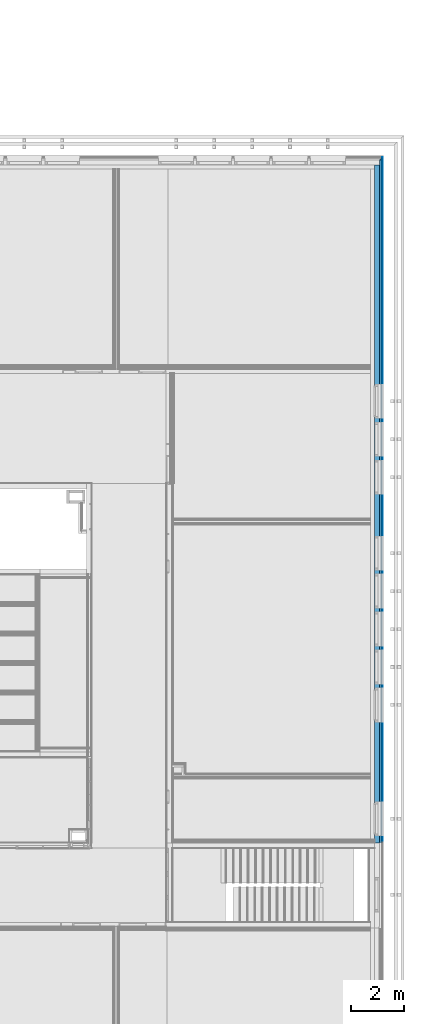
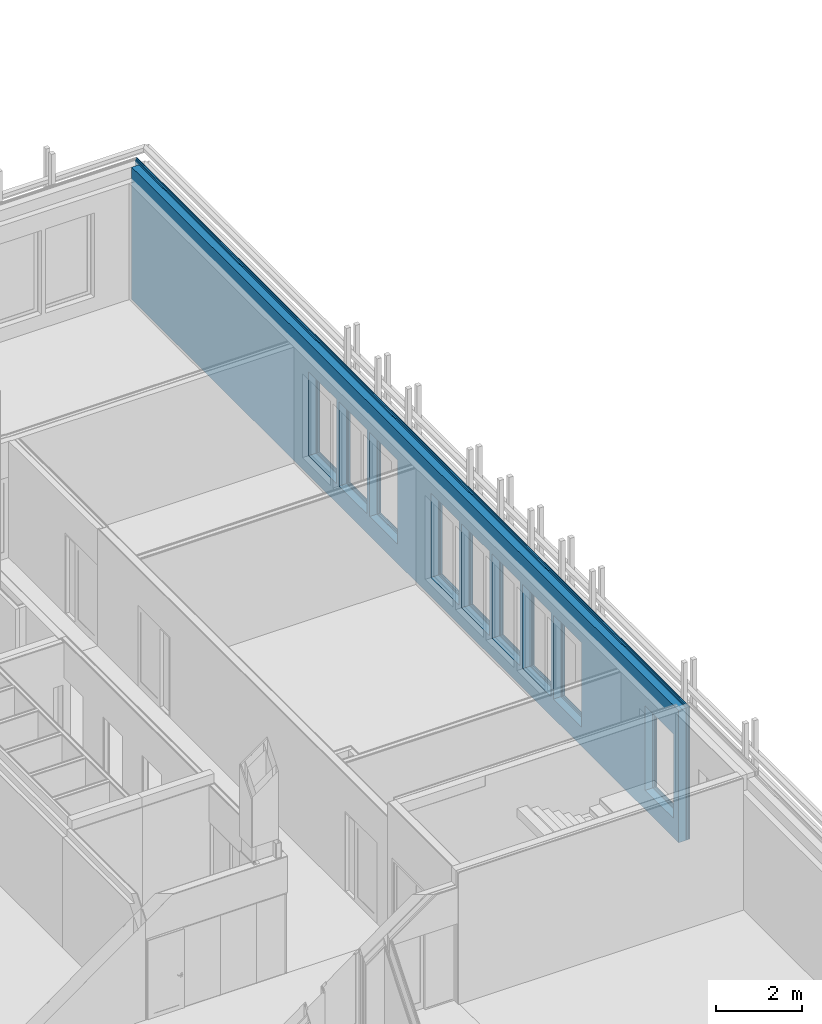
# One storey, part 122 of 139: 5 building element parts, 9 openings, 1 element without a shape of its own.
"""IFC2X3 building model written with IfcOpenShell, lengths in millimetres."""

from ifc_helpers import new_model, entity, si_unit, converted_unit, derived_unit, money_unit, direction, frame, origin_with_axes, place, context, subcontext, project, spatial, faceted_brep, material, type_object, element, aggregate, save


model = new_model("IFC2X3")

# Units and contexts
model_context = context("Model", 3, precision=0.01, world=origin_with_axes(), true_north=direction((0.0, 1.0)))
body_context = subcontext(model_context, "Body", "Model", "MODEL_VIEW")
ifc_project = project(units=[si_unit("LENGTHUNIT", "METRE", prefix="MILLI"), si_unit("AREAUNIT", "SQUARE_METRE"), si_unit("VOLUMEUNIT", "CUBIC_METRE"), converted_unit("PLANEANGLEUNIT", "DEGREE", entity("IfcPlaneAngleMeasure", 0.0174532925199), si_unit("PLANEANGLEUNIT", "RADIAN"), dimensions=[0, 0, 0, 0, 0, 0, 0]), money_unit("EUR"), converted_unit("TIMEUNIT", "Year", entity("IfcTimeMeasure", 31556926.0), si_unit("TIMEUNIT", "SECOND"), dimensions=[0, 0, 1, 0, 0, 0, 0]), si_unit("MASSUNIT", "GRAM", prefix="KILO"), si_unit("THERMODYNAMICTEMPERATUREUNIT", "DEGREE_CELSIUS"), si_unit("LUMINOUSINTENSITYUNIT", "LUMEN"), si_unit("ENERGYUNIT", "JOULE", prefix="MEGA"), derived_unit("THERMALCONDUCTANCEUNIT", [(si_unit("POWERUNIT", "WATT"), 1), (si_unit("LENGTHUNIT", "METRE"), -1), (si_unit("THERMODYNAMICTEMPERATUREUNIT", "KELVIN"), -1)]), derived_unit("SPECIFICHEATCAPACITYUNIT", [(si_unit("ENERGYUNIT", "JOULE"), 1), (si_unit("MASSUNIT", "GRAM", prefix="KILO"), -1), (si_unit("THERMODYNAMICTEMPERATUREUNIT", "KELVIN"), -1)]), derived_unit("MASSDENSITYUNIT", [(si_unit("MASSUNIT", "GRAM", prefix="KILO"), 1), (si_unit("VOLUMEUNIT", "CUBIC_METRE"), -1)])], contexts=[model_context])

# Site, building, storey
site_placement = place(None, origin_with_axes())
site = spatial("IfcSite", under=ifc_project, at=site_placement, Name="Kolde pst 67a", CompositionType="ELEMENT")
building_placement = place(site_placement, origin_with_axes())
building = spatial("IfcBuilding", under=site, at=building_placement, Name="Riigigümnaasium", CompositionType="ELEMENT")
storey_placement = place(building_placement, frame((0.0, 0.0, 4600.0), z_axis=(0.0, 0.0, 1.0), x_axis=(1.0, 0.0, 0.0)))
storey = spatial("IfcBuildingStorey", under=building, at=storey_placement, Name="2. korrus", CompositionType="ELEMENT", Elevation=4600.0)

# Wall, openings, building element parts
wall_type = type_object("IfcWallType", Name="VS-CLT-16/1_soojust 200+laudis 472", PredefinedType="NOTDEFINED")
wall_placement = place(storey_placement, frame((84439.9993279, 10899.9619407, -150.1), z_axis=(0.0, 0.0, 1.0), x_axis=(0.0, 1.0, 0.0)))
wall = element("IfcWall", 1, at=wall_placement, inside=storey, type_object=wall_type, Name="Välissein")
opening_1_placement = place(wall_placement, frame((905.069224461, 0.0, 550.1), z_axis=(0.0, 0.0, 1.0), x_axis=(1.0, 0.0, 0.0)))
element("IfcOpeningElement", 2, at=opening_1_placement, cuts=wall, Name="Välisaken", context=body_context, shape_type="Brep", body=[
    faceted_brep([(-655.0, -122.0, 0.0), (-655.0, -122.0, 2400.0), (-655.0, 632.0, 2400.0), (-655.0, 632.0, 0.0), (655.0, -122.0, 0.0), (655.0, -122.0, 2400.0), (655.0, 632.0, 2400.0), (655.0, 632.0, 0.0)], [[[0, 1, 2, 3]], [[0, 4, 5, 1]], [[1, 5, 6, 2]], [[3, 2, 6, 7]], [[4, 0, 3, 7]], [[5, 4, 7, 6]]]),
    faceted_brep([(-655.0, -122.0, 2400.0), (-655.0, -122.0, 0.0), (-655.0, -784.0, 0.0), (-655.0, -784.0, 2400.0), (655.0, -122.0, 2400.0), (655.0, -122.0, 0.0), (655.0, -784.0, 0.0), (655.0, -784.0, 2400.0)], [[[0, 1, 2, 3]], [[0, 4, 5, 1]], [[1, 5, 6, 2]], [[3, 2, 6, 7]], [[4, 0, 3, 7]], [[5, 4, 7, 6]]]),
])
opening_2_placement = place(wall_placement, frame((16635.0631401, 0.0, 550.1), z_axis=(0.0, 0.0, 1.0), x_axis=(1.0, 0.0, 0.0)))
element("IfcOpeningElement", 3, at=opening_2_placement, cuts=wall, Name="Välisaken", context=body_context, shape_type="Brep", body=[
    faceted_brep([(655.0, 632.0, 0.0), (655.0, 632.0, 2400.0), (655.0, -122.0, 2400.0), (655.0, -122.0, 0.0), (-655.0, 632.0, 0.0), (-655.0, 632.0, 2400.0), (-655.0, -122.0, 2400.0), (-655.0, -122.0, 0.0)], [[[0, 1, 2, 3]], [[0, 4, 5, 1]], [[1, 5, 6, 2]], [[3, 2, 6, 7]], [[4, 0, 3, 7]], [[5, 4, 7, 6]]]),
    faceted_brep([(655.0, -784.0, 2400.0), (655.0, -784.0, 0.0), (655.0, -122.0, 0.0), (655.0, -122.0, 2400.0), (-655.0, -784.0, 2400.0), (-655.0, -784.0, 0.0), (-655.0, -122.0, 0.0), (-655.0, -122.0, 2400.0)], [[[0, 1, 2, 3]], [[0, 4, 5, 1]], [[1, 5, 6, 2]], [[3, 2, 6, 7]], [[4, 0, 3, 7]], [[5, 4, 7, 6]]]),
])
opening_3_placement = place(wall_placement, frame((15205.0631394, 0.0, 550.1), z_axis=(0.0, 0.0, 1.0), x_axis=(1.0, 0.0, 0.0)))
element("IfcOpeningElement", 4, at=opening_3_placement, cuts=wall, Name="Välisaken", context=body_context, shape_type="Brep", body=[
    faceted_brep([(655.000000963, 632.0, 0.0), (655.000000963, 632.0, 2400.0), (655.000000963, -122.0, 2400.0), (655.000000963, -122.0, 0.0), (-655.000000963, 632.0, 0.0), (-655.000000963, 632.0, 2400.0), (-655.000000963, -122.0, 2400.0), (-655.000000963, -122.0, 0.0)], [[[0, 1, 2, 3]], [[0, 4, 5, 1]], [[1, 5, 6, 2]], [[3, 2, 6, 7]], [[4, 0, 3, 7]], [[5, 4, 7, 6]]]),
    faceted_brep([(655.000000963, -784.0, 2400.0), (655.000000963, -784.0, 0.0), (655.000000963, -122.0, 0.0), (655.000000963, -122.0, 2400.0), (-655.000000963, -784.0, 2400.0), (-655.000000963, -784.0, 0.0), (-655.000000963, -122.0, 0.0), (-655.000000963, -122.0, 2400.0)], [[[0, 1, 2, 3]], [[0, 4, 5, 1]], [[1, 5, 6, 2]], [[3, 2, 6, 7]], [[4, 0, 3, 7]], [[5, 4, 7, 6]]]),
])
opening_4_placement = place(wall_placement, frame((13775.0631386, 0.0, 550.1), z_axis=(0.0, 0.0, 1.0), x_axis=(1.0, 0.0, 0.0)))
element("IfcOpeningElement", 5, at=opening_4_placement, cuts=wall, Name="Välisaken", context=body_context, shape_type="Brep", body=[
    faceted_brep([(655.0, 632.0, 0.0), (655.0, 632.0, 2400.0), (655.0, -122.0, 2400.0), (655.0, -122.0, 0.0), (-655.0, 632.0, 0.0), (-655.0, 632.0, 2400.0), (-655.0, -122.0, 2400.0), (-655.0, -122.0, 0.0)], [[[0, 1, 2, 3]], [[0, 4, 5, 1]], [[1, 5, 6, 2]], [[3, 2, 6, 7]], [[4, 0, 3, 7]], [[5, 4, 7, 6]]]),
    faceted_brep([(655.0, -784.0, 2400.0), (655.0, -784.0, 0.0), (655.0, -122.0, 0.0), (655.0, -122.0, 2400.0), (-655.0, -784.0, 2400.0), (-655.0, -784.0, 0.0), (-655.0, -122.0, 0.0), (-655.0, -122.0, 2400.0)], [[[0, 1, 2, 3]], [[0, 4, 5, 1]], [[1, 5, 6, 2]], [[3, 2, 6, 7]], [[4, 0, 3, 7]], [[5, 4, 7, 6]]]),
])
opening_5_placement = place(wall_placement, frame((5195.06783143, 0.0, 550.1), z_axis=(0.0, 0.0, 1.0), x_axis=(1.0, 0.0, 0.0)))
element("IfcOpeningElement", 6, at=opening_5_placement, cuts=wall, Name="Välisaken", context=body_context, shape_type="Brep", body=[
    faceted_brep([(-655.0, -122.0, 0.0), (-655.0, -122.0, 2400.0), (-655.0, 632.0, 2400.0), (-655.0, 632.0, 0.0), (655.0, -122.0, 0.0), (655.0, -122.0, 2400.0), (655.0, 632.0, 2400.0), (655.0, 632.0, 0.0)], [[[0, 1, 2, 3]], [[0, 4, 5, 1]], [[1, 5, 6, 2]], [[3, 2, 6, 7]], [[4, 0, 3, 7]], [[5, 4, 7, 6]]]),
    faceted_brep([(-655.0, -122.0, 2400.0), (-655.0, -122.0, 0.0), (-655.0, -784.0, 0.0), (-655.0, -784.0, 2400.0), (655.0, -122.0, 2400.0), (655.0, -122.0, 0.0), (655.0, -784.0, 0.0), (655.0, -784.0, 2400.0)], [[[0, 1, 2, 3]], [[0, 4, 5, 1]], [[1, 5, 6, 2]], [[3, 2, 6, 7]], [[4, 0, 3, 7]], [[5, 4, 7, 6]]]),
])
opening_6_placement = place(wall_placement, frame((10915.067711, 0.0, 550.1), z_axis=(0.0, 0.0, 1.0), x_axis=(1.0, 0.0, 0.0)))
element("IfcOpeningElement", 7, at=opening_6_placement, cuts=wall, Name="Välisaken", context=body_context, shape_type="Brep", body=[
    faceted_brep([(655.0, 632.0, 0.0), (655.0, 632.0, 2400.0), (655.0, -122.0, 2400.0), (655.0, -122.0, 0.0), (-655.0, 632.0, 0.0), (-655.0, 632.0, 2400.0), (-655.0, -122.0, 2400.0), (-655.0, -122.0, 0.0)], [[[0, 1, 2, 3]], [[0, 4, 5, 1]], [[1, 5, 6, 2]], [[3, 2, 6, 7]], [[4, 0, 3, 7]], [[5, 4, 7, 6]]]),
    faceted_brep([(655.0, -784.0, 2400.0), (655.0, -784.0, 0.0), (655.0, -122.0, 0.0), (655.0, -122.0, 2400.0), (-655.0, -784.0, 2400.0), (-655.0, -784.0, 0.0), (-655.0, -122.0, 0.0), (-655.0, -122.0, 2400.0)], [[[0, 1, 2, 3]], [[0, 4, 5, 1]], [[1, 5, 6, 2]], [[3, 2, 6, 7]], [[4, 0, 3, 7]], [[5, 4, 7, 6]]]),
])
opening_7_placement = place(wall_placement, frame((6625.06024154, 0.0, 550.1), z_axis=(0.0, 0.0, 1.0), x_axis=(1.0, 0.0, 0.0)))
element("IfcOpeningElement", 8, at=opening_7_placement, cuts=wall, Name="Välisaken", context=body_context, shape_type="Brep", body=[
    faceted_brep([(655.0, 632.0, 0.0), (655.0, 632.0, 2400.0), (655.0, -122.0, 2400.0), (655.0, -122.0, 0.0), (-655.0, 632.0, 0.0), (-655.0, 632.0, 2400.0), (-655.0, -122.0, 2400.0), (-655.0, -122.0, 0.0)], [[[0, 1, 2, 3]], [[0, 4, 5, 1]], [[1, 5, 6, 2]], [[3, 2, 6, 7]], [[4, 0, 3, 7]], [[5, 4, 7, 6]]]),
    faceted_brep([(655.0, -784.0, 2400.0), (655.0, -784.0, 0.0), (655.0, -122.0, 0.0), (655.0, -122.0, 2400.0), (-655.0, -784.0, 2400.0), (-655.0, -784.0, 0.0), (-655.0, -122.0, 0.0), (-655.0, -122.0, 2400.0)], [[[0, 1, 2, 3]], [[0, 4, 5, 1]], [[1, 5, 6, 2]], [[3, 2, 6, 7]], [[4, 0, 3, 7]], [[5, 4, 7, 6]]]),
])
opening_8_placement = place(wall_placement, frame((8055.06782201, 0.0, 550.1), z_axis=(0.0, 0.0, 1.0), x_axis=(1.0, 0.0, 0.0)))
element("IfcOpeningElement", 9, at=opening_8_placement, cuts=wall, Name="Välisaken", context=body_context, shape_type="Brep", body=[
    faceted_brep([(655.0, 632.0, 0.0), (655.0, 632.0, 2400.0), (655.0, -122.0, 2400.0), (655.0, -122.0, 0.0), (-655.0, 632.0, 0.0), (-655.0, 632.0, 2400.0), (-655.0, -122.0, 2400.0), (-655.0, -122.0, 0.0)], [[[0, 1, 2, 3]], [[0, 4, 5, 1]], [[1, 5, 6, 2]], [[3, 2, 6, 7]], [[4, 0, 3, 7]], [[5, 4, 7, 6]]]),
    faceted_brep([(655.0, -784.0, 2400.0), (655.0, -784.0, 0.0), (655.0, -122.0, 0.0), (655.0, -122.0, 2400.0), (-655.0, -784.0, 2400.0), (-655.0, -784.0, 0.0), (-655.0, -122.0, 0.0), (-655.0, -122.0, 2400.0)], [[[0, 1, 2, 3]], [[0, 4, 5, 1]], [[1, 5, 6, 2]], [[3, 2, 6, 7]], [[4, 0, 3, 7]], [[5, 4, 7, 6]]]),
])
opening_9_placement = place(wall_placement, frame((9485.06781639, 0.0, 550.1), z_axis=(0.0, 0.0, 1.0), x_axis=(1.0, 0.0, 0.0)))
element("IfcOpeningElement", 10, at=opening_9_placement, cuts=wall, Name="Välisaken", context=body_context, shape_type="Brep", body=[
    faceted_brep([(655.0, 632.0, 0.0), (655.0, 632.0, 2400.0), (655.0, -122.0, 2400.0), (655.0, -122.0, 0.0), (-655.0, 632.0, 0.0), (-655.0, 632.0, 2400.0), (-655.0, -122.0, 2400.0), (-655.0, -122.0, 0.0)], [[[0, 1, 2, 3]], [[0, 4, 5, 1]], [[1, 5, 6, 2]], [[3, 2, 6, 7]], [[4, 0, 3, 7]], [[5, 4, 7, 6]]]),
    faceted_brep([(655.0, -784.0, 2400.0), (655.0, -784.0, 0.0), (655.0, -122.0, 0.0), (655.0, -122.0, 2400.0), (-655.0, -784.0, 2400.0), (-655.0, -784.0, 0.0), (-655.0, -122.0, 0.0), (-655.0, -122.0, 2400.0)], [[[0, 1, 2, 3]], [[0, 4, 5, 1]], [[1, 5, 6, 2]], [[3, 2, 6, 7]], [[4, 0, 3, 7]], [[5, 4, 7, 6]]]),
])
ifc_material_1 = material(Name="_SOOJUSTUS - mineraalvill, λD<0,032 W/(mK), kuumtsingitud lehtteras termoroovidega, S350GD+Zn275 vastavalt EN10346, ISOVER EXTREME 32 200mm või samaväärne")
building_element_part_1_placement = place(wall_placement, origin_with_axes())
building_element_part_1 = element("IfcBuildingElementPart", 11, at=building_element_part_1_placement, material=ifc_material_1, Name="_SOOJUSTUS - mineraalvill, λD<0,032 W/(mK), kuumtsingitud lehtteras termoroovidega, S350GD+Zn275 vastavalt EN10346, ISOVER EXTREME 32 200mm või samaväärne", context=body_context, shape_type="Brep", body=[
    faceted_brep([(25540.0377591, 0.0, 0.0), (0.0, 0.0, 0.0), (0.0, 0.0, 3770.1), (25540.0377591, 0.0, 3770.1), (250.069224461, 0.0, 550.1), (1560.06922446, 0.0, 550.1), (1560.06922446, 0.0, 2950.1), (250.069224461, 0.0, 2950.1), (17290.0631401, 0.0, 2950.1), (15980.0631401, 0.0, 2950.1), (15980.0631401, 0.0, 550.1), (17290.0631401, 0.0, 550.1), (14550.0631384, 0.0, 550.1), (15860.0631403, 0.0, 550.1), (15860.0631403, 0.0, 2950.1), (14550.0631384, 0.0, 2950.1), (14430.0631386, 0.0, 2950.1), (13120.0631386, 0.0, 2950.1), (13120.0631386, 0.0, 550.1), (14430.0631386, 0.0, 550.1), (4540.06783143, 0.0, 550.1), (5850.06783143, 0.0, 550.1), (5850.06783143, 0.0, 2950.1), (4540.06783143, 0.0, 2950.1), (11570.067711, 0.0, 2950.1), (10260.067711, 0.0, 2950.1), (10260.067711, 0.0, 550.1), (11570.067711, 0.0, 550.1), (5970.06024154, 0.0, 550.1), (7280.06024154, 0.0, 550.1), (7280.06024154, 0.0, 2950.1), (5970.06024154, 0.0, 2950.1), (8710.06782201, 0.0, 2950.1), (7400.06782201, 0.0, 2950.1), (7400.06782201, 0.0, 550.1), (8710.06782201, 0.0, 550.1), (8830.06781639, 0.0, 550.1), (10140.0678164, 0.0, 550.1), (10140.0678164, 0.0, 2950.1), (8830.06781639, 0.0, 2950.1), (25540.0377591, -200.0, 0.0), (0.0, -200.0, 0.0), (0.0, -200.0, 3770.1), (25540.0377591, -200.0, 3770.1), (25540.0377591, -200.0, 20.1), (250.069224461, -122.0, 550.1), (1560.06922446, -122.0, 550.1), (1560.06922446, -122.0, 2950.1), (250.069224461, -122.0, 2950.1), (17290.0631401, -122.0, 2950.1), (15980.0631401, -122.0, 2950.1), (15980.0631401, -122.0, 550.1), (17290.0631401, -122.0, 550.1), (14550.0631384, -122.0, 550.1), (15860.0631403, -122.0, 550.1), (15860.0631403, -122.0, 2950.1), (14550.0631384, -122.0, 2950.1), (14430.0631386, -122.0, 2950.1), (13120.0631386, -122.0, 2950.1), (13120.0631386, -122.0, 550.1), (14430.0631386, -122.0, 550.1), (4540.06783143, -122.0, 550.1), (5850.06783143, -122.0, 550.1), (5850.06783143, -122.0, 2950.1), (4540.06783143, -122.0, 2950.1), (11570.067711, -122.0, 2950.1), (10260.067711, -122.0, 2950.1), (10260.067711, -122.0, 550.1), (11570.067711, -122.0, 550.1), (5970.06024154, -122.0, 550.1), (7280.06024154, -122.0, 550.1), (7280.06024154, -122.0, 2950.1), (5970.06024154, -122.0, 2950.1), (8710.06782201, -122.0, 2950.1), (7400.06782201, -122.0, 2950.1), (7400.06782201, -122.0, 550.1), (8710.06782201, -122.0, 550.1), (8830.06781639, -122.0, 550.1), (10140.0678164, -122.0, 550.1), (10140.0678164, -122.0, 2950.1), (8830.06781639, -122.0, 2950.1), (250.069224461, -200.0, 2950.1), (1560.06922446, -200.0, 2950.1), (1560.06922446, -200.0, 550.1), (250.069224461, -200.0, 550.1), (17290.0631401, -200.0, 550.1), (15980.0631401, -200.0, 550.1), (15980.0631401, -200.0, 2950.1), (17290.0631401, -200.0, 2950.1), (14550.0631384, -200.0, 2950.1), (15860.0631403, -200.0, 2950.1), (15860.0631403, -200.0, 550.1), (14550.0631384, -200.0, 550.1), (14430.0631386, -200.0, 550.1), (13120.0631386, -200.0, 550.1), (13120.0631386, -200.0, 2950.1), (14430.0631386, -200.0, 2950.1), (4540.06783143, -200.0, 2950.1), (5850.06783143, -200.0, 2950.1), (5850.06783143, -200.0, 550.1), (4540.06783143, -200.0, 550.1), (11570.067711, -200.0, 550.1), (10260.067711, -200.0, 550.1), (10260.067711, -200.0, 2950.1), (11570.067711, -200.0, 2950.1), (5970.06024154, -200.0, 2950.1), (7280.06024154, -200.0, 2950.1), (7280.06024154, -200.0, 550.1), (5970.06024154, -200.0, 550.1), (8710.06782201, -200.0, 550.1), (7400.06782201, -200.0, 550.1), (7400.06782201, -200.0, 2950.1), (8710.06782201, -200.0, 2950.1), (8830.06781639, -200.0, 2950.1), (10140.0678164, -200.0, 2950.1), (10140.0678164, -200.0, 550.1), (8830.06781639, -200.0, 550.1)], [[[0, 1, 2, 3], [4, 5, 6, 7], [8, 9, 10, 11], [12, 13, 14, 15], [16, 17, 18, 19], [20, 21, 22, 23], [24, 25, 26, 27], [28, 29, 30, 31], [32, 33, 34, 35], [36, 37, 38, 39]], [[40, 41, 1, 0]], [[2, 1, 41, 42]], [[3, 2, 42, 43]], [[3, 43, 44, 40, 0]], [[45, 46, 5, 4]], [[46, 47, 6, 5]], [[47, 48, 7, 6]], [[48, 45, 4, 7]], [[9, 8, 49, 50]], [[10, 9, 50, 51]], [[11, 10, 51, 52]], [[8, 11, 52, 49]], [[53, 54, 13, 12]], [[54, 55, 14, 13]], [[55, 56, 15, 14]], [[56, 53, 12, 15]], [[17, 16, 57, 58]], [[18, 17, 58, 59]], [[19, 18, 59, 60]], [[16, 19, 60, 57]], [[61, 62, 21, 20]], [[62, 63, 22, 21]], [[63, 64, 23, 22]], [[64, 61, 20, 23]], [[25, 24, 65, 66]], [[26, 25, 66, 67]], [[27, 26, 67, 68]], [[24, 27, 68, 65]], [[69, 70, 29, 28]], [[70, 71, 30, 29]], [[71, 72, 31, 30]], [[72, 69, 28, 31]], [[33, 32, 73, 74]], [[34, 33, 74, 75]], [[35, 34, 75, 76]], [[32, 35, 76, 73]], [[77, 78, 37, 36]], [[78, 79, 38, 37]], [[79, 80, 39, 38]], [[80, 77, 36, 39]], [[44, 43, 42, 41, 40], [81, 82, 83, 84], [85, 86, 87, 88], [89, 90, 91, 92], [93, 94, 95, 96], [97, 98, 99, 100], [101, 102, 103, 104], [105, 106, 107, 108], [109, 110, 111, 112], [113, 114, 115, 116]], [[46, 45, 84, 83]], [[47, 46, 83, 82]], [[48, 47, 82, 81]], [[45, 48, 81, 84]], [[88, 87, 50, 49]], [[87, 86, 51, 50]], [[86, 85, 52, 51]], [[85, 88, 49, 52]], [[54, 53, 92, 91]], [[55, 54, 91, 90]], [[56, 55, 90, 89]], [[53, 56, 89, 92]], [[96, 95, 58, 57]], [[95, 94, 59, 58]], [[94, 93, 60, 59]], [[93, 96, 57, 60]], [[62, 61, 100, 99]], [[63, 62, 99, 98]], [[64, 63, 98, 97]], [[61, 64, 97, 100]], [[104, 103, 66, 65]], [[103, 102, 67, 66]], [[102, 101, 68, 67]], [[101, 104, 65, 68]], [[70, 69, 108, 107]], [[71, 70, 107, 106]], [[72, 71, 106, 105]], [[69, 72, 105, 108]], [[112, 111, 74, 73]], [[111, 110, 75, 74]], [[110, 109, 76, 75]], [[109, 112, 73, 76]], [[78, 77, 116, 115]], [[79, 78, 115, 114]], [[80, 79, 114, 113]], [[77, 80, 113, 116]]]),
])
ifc_material_2 = material(Name="_TUULETÕKE - tuuletõkkeplaat, soojuserijuhtivus λD<0,031 W/(mK), ISOVER RKL FACADE või samaväärne, liitekohad katta tihendusteibiga ISOVER FacadeTape või samaväärne")
building_element_part_2_placement = place(wall_placement, origin_with_axes())
building_element_part_2 = element("IfcBuildingElementPart", 12, at=building_element_part_2_placement, material=ifc_material_2, Name="_TUULETÕKE - tuuletõkkeplaat, soojuserijuhtivus λD<0,031 W/(mK), ISOVER RKL FACADE või samaväärne, liitekohad katta tihendusteibiga ISOVER FacadeTape või samaväärne", context=body_context, shape_type="Brep", body=[
    faceted_brep([(25740.0377591, -200.0, 0.0), (0.0, -200.0, 0.0), (0.0, -200.0, 3770.1), (25740.0377591, -200.0, 3770.1), (250.069224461, -200.0, 550.1), (1560.06922446, -200.0, 550.1), (1560.06922446, -200.0, 2950.1), (250.069224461, -200.0, 2950.1), (15980.0631401, -200.0, 2950.1), (15980.0631401, -200.0, 550.1), (17290.0631401, -200.0, 550.1), (17290.0631401, -200.0, 2950.1), (15860.0631403, -200.0, 2950.1), (14550.0631384, -200.0, 2950.1), (14550.0631384, -200.0, 550.1), (15860.0631403, -200.0, 550.1), (14430.0631386, -200.0, 550.1), (14430.0631386, -200.0, 2950.1), (13120.0631386, -200.0, 2950.1), (13120.0631386, -200.0, 550.1), (4540.06783143, -200.0, 550.1), (5850.06783143, -200.0, 550.1), (5850.06783143, -200.0, 2950.1), (4540.06783143, -200.0, 2950.1), (10260.067711, -200.0, 2950.1), (10260.067711, -200.0, 550.1), (11570.067711, -200.0, 550.1), (11570.067711, -200.0, 2950.1), (7280.06024154, -200.0, 2950.1), (5970.06024154, -200.0, 2950.1), (5970.06024154, -200.0, 550.1), (7280.06024154, -200.0, 550.1), (8710.06782201, -200.0, 550.1), (8710.06782201, -200.0, 2950.1), (7400.06782201, -200.0, 2950.1), (7400.06782201, -200.0, 550.1), (8830.06781639, -200.0, 550.1), (10140.0678164, -200.0, 550.1), (10140.0678164, -200.0, 2950.1), (8830.06781639, -200.0, 2950.1), (25740.0377591, -230.0, 0.0), (0.0, -230.0, 0.0), (0.0, -230.0, 3770.1), (25740.0377591, -230.0, 3770.1), (25740.0377591, -230.0, 20.1), (250.069224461, -230.0, 550.1), (1560.06922446, -230.0, 550.1), (1560.06922446, -230.0, 2950.1), (250.069224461, -230.0, 2950.1), (15980.0631401, -230.0, 2950.1), (15980.0631401, -230.0, 550.1), (17290.0631401, -230.0, 550.1), (17290.0631401, -230.0, 2950.1), (15860.0631403, -230.0, 2950.1), (14550.0631384, -230.0, 2950.1), (14550.0631384, -230.0, 550.1), (15860.0631403, -230.0, 550.1), (14430.0631386, -230.0, 2950.1), (14430.0631386, -230.0, 550.1), (13120.0631386, -230.0, 2950.1), (13120.0631386, -230.0, 550.1), (4540.06783143, -230.0, 550.1), (5850.06783143, -230.0, 550.1), (5850.06783143, -230.0, 2950.1), (4540.06783143, -230.0, 2950.1), (10260.067711, -230.0, 2950.1), (10260.067711, -230.0, 550.1), (11570.067711, -230.0, 550.1), (11570.067711, -230.0, 2950.1), (7280.06024154, -230.0, 2950.1), (5970.06024154, -230.0, 2950.1), (5970.06024154, -230.0, 550.1), (7280.06024154, -230.0, 550.1), (8710.06782201, -230.0, 2950.1), (8710.06782201, -230.0, 550.1), (7400.06782201, -230.0, 2950.1), (7400.06782201, -230.0, 550.1), (8830.06781639, -230.0, 550.1), (10140.0678164, -230.0, 550.1), (10140.0678164, -230.0, 2950.1), (8830.06781639, -230.0, 2950.1)], [[[0, 1, 2, 3], [4, 5, 6, 7], [8, 9, 10, 11], [12, 13, 14, 15], [16, 17, 18, 19], [20, 21, 22, 23], [24, 25, 26, 27], [28, 29, 30, 31], [32, 33, 34, 35], [36, 37, 38, 39]], [[40, 41, 1, 0]], [[2, 1, 41, 42]], [[3, 2, 42, 43]], [[40, 0, 3, 43, 44]], [[45, 46, 5, 4]], [[46, 47, 6, 5]], [[47, 48, 7, 6]], [[48, 45, 4, 7]], [[8, 49, 50, 9]], [[9, 50, 51, 10]], [[10, 51, 52, 11]], [[11, 52, 49, 8]], [[13, 12, 53, 54]], [[14, 13, 54, 55]], [[15, 14, 55, 56]], [[12, 15, 56, 53]], [[57, 17, 16, 58]], [[59, 18, 17, 57]], [[60, 19, 18, 59]], [[58, 16, 19, 60]], [[61, 62, 21, 20]], [[62, 63, 22, 21]], [[63, 64, 23, 22]], [[64, 61, 20, 23]], [[24, 65, 66, 25]], [[25, 66, 67, 26]], [[26, 67, 68, 27]], [[27, 68, 65, 24]], [[29, 28, 69, 70]], [[30, 29, 70, 71]], [[31, 30, 71, 72]], [[28, 31, 72, 69]], [[73, 33, 32, 74]], [[75, 34, 33, 73]], [[76, 35, 34, 75]], [[74, 32, 35, 76]], [[77, 78, 37, 36]], [[78, 79, 38, 37]], [[79, 80, 39, 38]], [[80, 77, 36, 39]], [[41, 40, 44, 43, 42], [45, 48, 47, 46], [51, 50, 49, 52], [53, 56, 55, 54], [59, 57, 58, 60], [61, 64, 63, 62], [67, 66, 65, 68], [69, 72, 71, 70], [75, 73, 74, 76], [77, 80, 79, 78]]]),
])
ifc_material_3 = material(Name="_KARKASS - puitroov 32x50mm vertikaalne, immutatud Driconi tulekaitsevahendiga või samaväärne, samm 600mm")
building_element_part_3_placement = place(wall_placement, origin_with_axes())
building_element_part_3 = element("IfcBuildingElementPart", 13, at=building_element_part_3_placement, material=ifc_material_3, Name="_KARKASS - puitroov 32x50mm vertikaalne, immutatud Driconi tulekaitsevahendiga või samaväärne, samm 600mm", context=body_context, shape_type="Brep", body=[
    faceted_brep([(0.0, -230.0, 0.0), (0.0, -230.0, 3770.1), (25770.0377591, -230.0, 3770.1), (25770.0377591, -230.0, 20.1), (25770.0377591, -230.0, 0.0), (250.069224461, -230.0, 550.1), (1560.06922446, -230.0, 550.1), (1560.06922446, -230.0, 2950.1), (250.069224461, -230.0, 2950.1), (15980.0631401, -230.0, 2950.1), (15980.0631401, -230.0, 550.1), (17290.0631401, -230.0, 550.1), (17290.0631401, -230.0, 2950.1), (15860.0631403, -230.0, 2950.1), (14550.0631384, -230.0, 2950.1), (14550.0631384, -230.0, 550.1), (15860.0631403, -230.0, 550.1), (14430.0631386, -230.0, 550.1), (14430.0631386, -230.0, 2950.1), (13120.0631386, -230.0, 2950.1), (13120.0631386, -230.0, 550.1), (4540.06783143, -230.0, 550.1), (5850.06783143, -230.0, 550.1), (5850.06783143, -230.0, 2950.1), (4540.06783143, -230.0, 2950.1), (10260.067711, -230.0, 2950.1), (10260.067711, -230.0, 550.1), (11570.067711, -230.0, 550.1), (11570.067711, -230.0, 2950.1), (7280.06024154, -230.0, 2950.1), (5970.06024154, -230.0, 2950.1), (5970.06024154, -230.0, 550.1), (7280.06024154, -230.0, 550.1), (8710.06782201, -230.0, 550.1), (8710.06782201, -230.0, 2950.1), (7400.06782201, -230.0, 2950.1), (7400.06782201, -230.0, 550.1), (8830.06781639, -230.0, 550.1), (10140.0678164, -230.0, 550.1), (10140.0678164, -230.0, 2950.1), (8830.06781639, -230.0, 2950.1), (0.0, -262.0, 0.0), (0.0, -262.0, 3770.1), (25770.0377591, -262.0, 3770.1), (25770.0377591, -262.0, 20.1), (25770.0377591, -262.0, 0.0), (250.069224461, -262.0, 550.1), (1560.06922446, -262.0, 550.1), (1560.06922446, -262.0, 2950.1), (250.069224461, -262.0, 2950.1), (15980.0631401, -262.0, 2950.1), (15980.0631401, -262.0, 550.1), (17290.0631401, -262.0, 550.1), (17290.0631401, -262.0, 2950.1), (15860.0631403, -262.0, 2950.1), (14550.0631384, -262.0, 2950.1), (14550.0631384, -262.0, 550.1), (15860.0631403, -262.0, 550.1), (14430.0631386, -262.0, 2950.1), (14430.0631386, -262.0, 550.1), (13120.0631386, -262.0, 2950.1), (13120.0631386, -262.0, 550.1), (4540.06783143, -262.0, 550.1), (5850.06783143, -262.0, 550.1), (5850.06783143, -262.0, 2950.1), (4540.06783143, -262.0, 2950.1), (10260.067711, -262.0, 2950.1), (10260.067711, -262.0, 550.1), (11570.067711, -262.0, 550.1), (11570.067711, -262.0, 2950.1), (7280.06024154, -262.0, 2950.1), (5970.06024154, -262.0, 2950.1), (5970.06024154, -262.0, 550.1), (7280.06024154, -262.0, 550.1), (8710.06782201, -262.0, 2950.1), (8710.06782201, -262.0, 550.1), (7400.06782201, -262.0, 2950.1), (7400.06782201, -262.0, 550.1), (8830.06781639, -262.0, 550.1), (10140.0678164, -262.0, 550.1), (10140.0678164, -262.0, 2950.1), (8830.06781639, -262.0, 2950.1)], [[[0, 1, 2, 3, 4], [5, 6, 7, 8], [9, 10, 11, 12], [13, 14, 15, 16], [17, 18, 19, 20], [21, 22, 23, 24], [25, 26, 27, 28], [29, 30, 31, 32], [33, 34, 35, 36], [37, 38, 39, 40]], [[1, 0, 41, 42]], [[2, 1, 42, 43]], [[44, 45, 4, 3, 2, 43]], [[45, 41, 0, 4]], [[46, 47, 6, 5]], [[47, 48, 7, 6]], [[48, 49, 8, 7]], [[49, 46, 5, 8]], [[9, 50, 51, 10]], [[10, 51, 52, 11]], [[11, 52, 53, 12]], [[12, 53, 50, 9]], [[14, 13, 54, 55]], [[15, 14, 55, 56]], [[16, 15, 56, 57]], [[13, 16, 57, 54]], [[58, 18, 17, 59]], [[60, 19, 18, 58]], [[61, 20, 19, 60]], [[59, 17, 20, 61]], [[62, 63, 22, 21]], [[63, 64, 23, 22]], [[64, 65, 24, 23]], [[65, 62, 21, 24]], [[25, 66, 67, 26]], [[26, 67, 68, 27]], [[27, 68, 69, 28]], [[28, 69, 66, 25]], [[30, 29, 70, 71]], [[31, 30, 71, 72]], [[32, 31, 72, 73]], [[29, 32, 73, 70]], [[74, 34, 33, 75]], [[76, 35, 34, 74]], [[77, 36, 35, 76]], [[75, 33, 36, 77]], [[78, 79, 38, 37]], [[79, 80, 39, 38]], [[80, 81, 40, 39]], [[81, 78, 37, 40]], [[41, 45, 44, 43, 42], [46, 49, 48, 47], [52, 51, 50, 53], [54, 57, 56, 55], [60, 58, 59, 61], [62, 65, 64, 63], [68, 67, 66, 69], [70, 73, 72, 71], [76, 74, 75, 77], [78, 81, 80, 79]]]),
])
ifc_material_4 = material(Name="_KARKASS - puitroov 32x50mm horisontaalne, immutatud Driconi tulekaitsevahendiga või samaväärne, samm 600mm")
building_element_part_4_placement = place(wall_placement, origin_with_axes())
building_element_part_4 = element("IfcBuildingElementPart", 14, at=building_element_part_4_placement, material=ifc_material_4, Name="_KARKASS - puitroov 32x50mm horisontaalne, immutatud Driconi tulekaitsevahendiga või samaväärne, samm 600mm", context=body_context, shape_type="Brep", body=[
    faceted_brep([(0.0, -262.0, 0.0), (0.0, -262.0, 3770.1), (25802.0377591, -262.0, 3770.1), (25802.0377591, -262.0, 20.1), (25802.0377591, -262.0, 0.0), (250.069224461, -262.0, 550.1), (1560.06922446, -262.0, 550.1), (1560.06922446, -262.0, 2950.1), (250.069224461, -262.0, 2950.1), (15980.0631401, -262.0, 2950.1), (15980.0631401, -262.0, 550.1), (17290.0631401, -262.0, 550.1), (17290.0631401, -262.0, 2950.1), (15860.0631403, -262.0, 2950.1), (14550.0631384, -262.0, 2950.1), (14550.0631384, -262.0, 550.1), (15860.0631403, -262.0, 550.1), (14430.0631386, -262.0, 550.1), (14430.0631386, -262.0, 2950.1), (13120.0631386, -262.0, 2950.1), (13120.0631386, -262.0, 550.1), (4540.06783143, -262.0, 550.1), (5850.06783143, -262.0, 550.1), (5850.06783143, -262.0, 2950.1), (4540.06783143, -262.0, 2950.1), (10260.067711, -262.0, 2950.1), (10260.067711, -262.0, 550.1), (11570.067711, -262.0, 550.1), (11570.067711, -262.0, 2950.1), (7280.06024154, -262.0, 2950.1), (5970.06024154, -262.0, 2950.1), (5970.06024154, -262.0, 550.1), (7280.06024154, -262.0, 550.1), (8710.06782201, -262.0, 550.1), (8710.06782201, -262.0, 2950.1), (7400.06782201, -262.0, 2950.1), (7400.06782201, -262.0, 550.1), (8830.06781639, -262.0, 550.1), (10140.0678164, -262.0, 550.1), (10140.0678164, -262.0, 2950.1), (8830.06781639, -262.0, 2950.1), (0.0, -294.0, 0.0), (0.0, -294.0, 3770.1), (25802.0377591, -294.0, 3770.1), (25802.0377591, -294.0, 20.1), (25802.0377591, -294.0, 0.0), (250.069224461, -294.0, 550.1), (1560.06922446, -294.0, 550.1), (1560.06922446, -294.0, 2950.1), (250.069224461, -294.0, 2950.1), (15980.0631401, -294.0, 2950.1), (15980.0631401, -294.0, 550.1), (17290.0631401, -294.0, 550.1), (17290.0631401, -294.0, 2950.1), (15860.0631403, -294.0, 2950.1), (14550.0631384, -294.0, 2950.1), (14550.0631384, -294.0, 550.1), (15860.0631403, -294.0, 550.1), (14430.0631386, -294.0, 2950.1), (14430.0631386, -294.0, 550.1), (13120.0631386, -294.0, 2950.1), (13120.0631386, -294.0, 550.1), (4540.06783143, -294.0, 550.1), (5850.06783143, -294.0, 550.1), (5850.06783143, -294.0, 2950.1), (4540.06783143, -294.0, 2950.1), (10260.067711, -294.0, 2950.1), (10260.067711, -294.0, 550.1), (11570.067711, -294.0, 550.1), (11570.067711, -294.0, 2950.1), (7280.06024154, -294.0, 2950.1), (5970.06024154, -294.0, 2950.1), (5970.06024154, -294.0, 550.1), (7280.06024154, -294.0, 550.1), (8710.06782201, -294.0, 2950.1), (8710.06782201, -294.0, 550.1), (7400.06782201, -294.0, 2950.1), (7400.06782201, -294.0, 550.1), (8830.06781639, -294.0, 550.1), (10140.0678164, -294.0, 550.1), (10140.0678164, -294.0, 2950.1), (8830.06781639, -294.0, 2950.1)], [[[0, 1, 2, 3, 4], [5, 6, 7, 8], [9, 10, 11, 12], [13, 14, 15, 16], [17, 18, 19, 20], [21, 22, 23, 24], [25, 26, 27, 28], [29, 30, 31, 32], [33, 34, 35, 36], [37, 38, 39, 40]], [[1, 0, 41, 42]], [[2, 1, 42, 43]], [[44, 45, 4, 3, 2, 43]], [[45, 41, 0, 4]], [[46, 47, 6, 5]], [[47, 48, 7, 6]], [[48, 49, 8, 7]], [[49, 46, 5, 8]], [[9, 50, 51, 10]], [[10, 51, 52, 11]], [[11, 52, 53, 12]], [[12, 53, 50, 9]], [[14, 13, 54, 55]], [[15, 14, 55, 56]], [[16, 15, 56, 57]], [[13, 16, 57, 54]], [[58, 18, 17, 59]], [[60, 19, 18, 58]], [[61, 20, 19, 60]], [[59, 17, 20, 61]], [[62, 63, 22, 21]], [[63, 64, 23, 22]], [[64, 65, 24, 23]], [[65, 62, 21, 24]], [[25, 66, 67, 26]], [[26, 67, 68, 27]], [[27, 68, 69, 28]], [[28, 69, 66, 25]], [[30, 29, 70, 71]], [[31, 30, 71, 72]], [[32, 31, 72, 73]], [[29, 32, 73, 70]], [[74, 34, 33, 75]], [[76, 35, 34, 74]], [[77, 36, 35, 76]], [[75, 33, 36, 77]], [[78, 79, 38, 37]], [[79, 80, 39, 38]], [[80, 81, 40, 39]], [[81, 78, 37, 40]], [[41, 45, 44, 43, 42], [46, 49, 48, 47], [52, 51, 50, 53], [54, 57, 56, 55], [60, 58, 59, 61], [62, 65, 64, 63], [68, 67, 66, 69], [70, 73, 72, 71], [76, 74, 75, 77], [78, 81, 80, 79]]]),
])
ifc_material_5 = material(Name="_VÄLISVIIMISTLUS - vertikaalne voodrilaud, Platowood P01 profiil 18x140mm, kuusk; eeltöödeldud tuletõkkega mõlemad küljed, B-s1, d0, Woodsafe Exterior WFX™ või samaväärne")
building_element_part_5_placement = place(wall_placement, origin_with_axes())
building_element_part_5 = element("IfcBuildingElementPart", 15, at=building_element_part_5_placement, material=ifc_material_5, Name="_VÄLISVIIMISTLUS - vertikaalne voodrilaud, Platowood P01 profiil 18x140mm, kuusk; eeltöödeldud tuletõkkega mõlemad küljed, B-s1, d0, Woodsafe Exterior WFX™ või samaväärne", context=body_context, shape_type="Brep", body=[
    faceted_brep([(0.0, -294.0, 0.0), (0.0, -294.0, 3770.1), (25834.0377591, -294.0, 3770.1), (25834.0377591, -294.0, 20.1), (25834.0377591, -294.0, 0.0), (250.069224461, -294.0, 550.1), (1560.06922446, -294.0, 550.1), (1560.06922446, -294.0, 2950.1), (250.069224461, -294.0, 2950.1), (15980.0631401, -294.0, 2950.1), (15980.0631401, -294.0, 550.1), (17290.0631401, -294.0, 550.1), (17290.0631401, -294.0, 2950.1), (15860.0631403, -294.0, 2950.1), (14550.0631384, -294.0, 2950.1), (14550.0631384, -294.0, 550.1), (15860.0631403, -294.0, 550.1), (14430.0631386, -294.0, 550.1), (14430.0631386, -294.0, 2950.1), (13120.0631386, -294.0, 2950.1), (13120.0631386, -294.0, 550.1), (4540.06783143, -294.0, 550.1), (5850.06783143, -294.0, 550.1), (5850.06783143, -294.0, 2950.1), (4540.06783143, -294.0, 2950.1), (10260.067711, -294.0, 2950.1), (10260.067711, -294.0, 550.1), (11570.067711, -294.0, 550.1), (11570.067711, -294.0, 2950.1), (7280.06024154, -294.0, 2950.1), (5970.06024154, -294.0, 2950.1), (5970.06024154, -294.0, 550.1), (7280.06024154, -294.0, 550.1), (8710.06782201, -294.0, 550.1), (8710.06782201, -294.0, 2950.1), (7400.06782201, -294.0, 2950.1), (7400.06782201, -294.0, 550.1), (8830.06781639, -294.0, 550.1), (10140.0678164, -294.0, 550.1), (10140.0678164, -294.0, 2950.1), (8830.06781639, -294.0, 2950.1), (0.0, -312.0, 0.0), (0.0, -312.0, 3770.1), (25834.0377591, -312.0, 3770.1), (25834.0377591, -312.0, 20.1), (25834.0377591, -312.0, 0.0), (250.069224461, -312.0, 550.1), (1560.06922446, -312.0, 550.1), (1560.06922446, -312.0, 2950.1), (250.069224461, -312.0, 2950.1), (15980.0631401, -312.0, 2950.1), (15980.0631401, -312.0, 550.1), (17290.0631401, -312.0, 550.1), (17290.0631401, -312.0, 2950.1), (15860.0631403, -312.0, 2950.1), (14550.0631384, -312.0, 2950.1), (14550.0631384, -312.0, 550.1), (15860.0631403, -312.0, 550.1), (14430.0631386, -312.0, 2950.1), (14430.0631386, -312.0, 550.1), (13120.0631386, -312.0, 2950.1), (13120.0631386, -312.0, 550.1), (4540.06783143, -312.0, 550.1), (5850.06783143, -312.0, 550.1), (5850.06783143, -312.0, 2950.1), (4540.06783143, -312.0, 2950.1), (10260.067711, -312.0, 2950.1), (10260.067711, -312.0, 550.1), (11570.067711, -312.0, 550.1), (11570.067711, -312.0, 2950.1), (7280.06024154, -312.0, 2950.1), (5970.06024154, -312.0, 2950.1), (5970.06024154, -312.0, 550.1), (7280.06024154, -312.0, 550.1), (8710.06782201, -312.0, 2950.1), (8710.06782201, -312.0, 550.1), (7400.06782201, -312.0, 2950.1), (7400.06782201, -312.0, 550.1), (8830.06781639, -312.0, 550.1), (10140.0678164, -312.0, 550.1), (10140.0678164, -312.0, 2950.1), (8830.06781639, -312.0, 2950.1)], [[[0, 1, 2, 3, 4], [5, 6, 7, 8], [9, 10, 11, 12], [13, 14, 15, 16], [17, 18, 19, 20], [21, 22, 23, 24], [25, 26, 27, 28], [29, 30, 31, 32], [33, 34, 35, 36], [37, 38, 39, 40]], [[1, 0, 41, 42]], [[2, 1, 42, 43]], [[44, 45, 4, 3, 2, 43]], [[45, 41, 0, 4]], [[46, 47, 6, 5]], [[47, 48, 7, 6]], [[48, 49, 8, 7]], [[49, 46, 5, 8]], [[9, 50, 51, 10]], [[10, 51, 52, 11]], [[11, 52, 53, 12]], [[12, 53, 50, 9]], [[14, 13, 54, 55]], [[15, 14, 55, 56]], [[16, 15, 56, 57]], [[13, 16, 57, 54]], [[58, 18, 17, 59]], [[60, 19, 18, 58]], [[61, 20, 19, 60]], [[59, 17, 20, 61]], [[62, 63, 22, 21]], [[63, 64, 23, 22]], [[64, 65, 24, 23]], [[65, 62, 21, 24]], [[25, 66, 67, 26]], [[26, 67, 68, 27]], [[27, 68, 69, 28]], [[28, 69, 66, 25]], [[30, 29, 70, 71]], [[31, 30, 71, 72]], [[32, 31, 72, 73]], [[29, 32, 73, 70]], [[74, 34, 33, 75]], [[76, 35, 34, 74]], [[77, 36, 35, 76]], [[75, 33, 36, 77]], [[78, 79, 38, 37]], [[79, 80, 39, 38]], [[80, 81, 40, 39]], [[81, 78, 37, 40]], [[41, 45, 44, 43, 42], [46, 49, 48, 47], [52, 51, 50, 53], [54, 57, 56, 55], [60, 58, 59, 61], [62, 65, 64, 63], [68, 67, 66, 69], [70, 73, 72, 71], [76, 74, 75, 77], [78, 81, 80, 79]]]),
])
aggregate(wall, [building_element_part_1, building_element_part_2, building_element_part_3, building_element_part_4, building_element_part_5])

save(model, "model.ifc")
